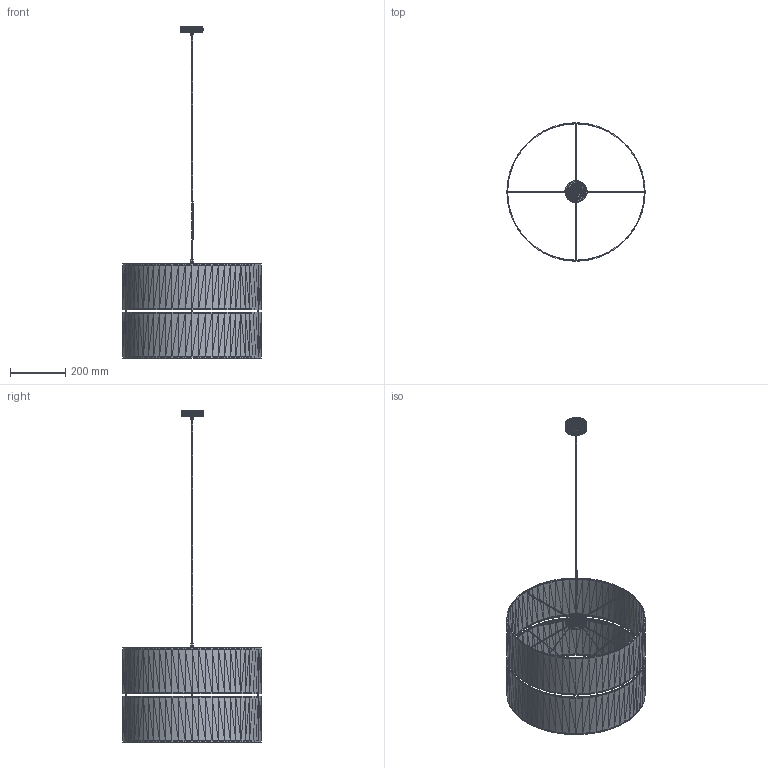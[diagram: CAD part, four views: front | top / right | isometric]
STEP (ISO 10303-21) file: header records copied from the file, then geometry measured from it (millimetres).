
FILE_DESCRIPTION(('FreeCAD Model'),'2;1');
FILE_NAME('Open CASCADE Shape Model','2022-11-30T08:33:26',('Author'),( ''),'Open CASCADE STEP processor 7.6','FreeCAD','Unknown');
FILE_SCHEMA(('AUTOMOTIVE_DESIGN { 1 0 10303 214 1 1 1 1 }'));
Length unit declared in the file: millimetre
Products named in the file (56): Unnamed; Mesh056 (Solid); Mesh001001 (Solid); Mesh002001 (Solid); Mesh003001 (Solid); Mesh004001 (Solid); Mesh005001 (Solid); Mesh006001 (Solid); Mesh007001 (Solid); Mesh008001 (Solid); Mesh009001 (Solid); Mesh010001 (Solid); Mesh011001 (Solid); Mesh012001 (Solid); Mesh013001 (Solid); Mesh014001 (Solid); Mesh015001 (Solid); Mesh017001 (Solid); Mesh018001 (Solid); Mesh019001 (Solid); Mesh020001 (Solid); Mesh021001 (Solid); Mesh022001 (Solid); Mesh023001 (Solid); Mesh024001 (Solid); Mesh025001 (Solid); Mesh026001 (Solid); Mesh027001 (Solid); Mesh028001 (Solid); Mesh029001 (Solid); Mesh030001 (Solid); Mesh031001 (Solid); Mesh032001 (Solid); Mesh033001 (Solid); Mesh034001 (Solid); Mesh035001 (Solid); Mesh036001 (Solid); Mesh037001 (Solid); Mesh038001 (Solid); Mesh039001 (Solid)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
Assembly tree (55 placements, depth 2):
  Unnamed
    Mesh056 (Solid)
    Mesh001001 (Solid)
    Mesh002001 (Solid)
    Mesh003001 (Solid)
    Mesh004001 (Solid)
    Mesh005001 (Solid)
    Mesh006001 (Solid)
    Mesh007001 (Solid)
    Mesh008001 (Solid)
    Mesh009001 (Solid)
    Mesh010001 (Solid)
    Mesh011001 (Solid)
    Mesh012001 (Solid)
    Mesh013001 (Solid)
    Mesh014001 (Solid)
    Mesh015001 (Solid)
    Mesh017001 (Solid)
    Mesh018001 (Solid)
    Mesh019001 (Solid)
    Mesh020001 (Solid)
    Mesh021001 (Solid)
    Mesh022001 (Solid)
    Mesh023001 (Solid)
    Mesh024001 (Solid)
    Mesh025001 (Solid)
    Mesh026001 (Solid)
    Mesh027001 (Solid)
    Mesh028001 (Solid)
    Mesh029001 (Solid)
    Mesh030001 (Solid)
    Mesh031001 (Solid)
    Mesh032001 (Solid)
    Mesh033001 (Solid)
    Mesh034001 (Solid)
    Mesh035001 (Solid)
    Mesh036001 (Solid)
    Mesh037001 (Solid)
    Mesh038001 (Solid)
    Mesh039001 (Solid)
    Mesh040001 (Solid)
    Mesh041001 (Solid)
    Mesh042001 (Solid)
    Mesh043001 (Solid)
    Mesh044001 (Solid)
    Mesh045001 (Solid)
    Mesh046001 (Solid)
    Mesh047001 (Solid)
    Mesh048001 (Solid)
    Mesh049001 (Solid)
    Mesh050001 (Solid)
    Mesh051001 (Solid)
    Mesh052001 (Solid)
    Mesh053001 (Solid)
    Mesh054001 (Solid)
    Mesh055001 (Solid)
Bounding box: 499.5 x 499.5 x 1200 mm (x, y, z)
Volume: 289238.7 mm3; surface area: 676209.3 mm2
Topology: 40 solids, 102 shells, 9870 faces, 15381 edges, 5595 vertices
Faces by surface type: plane 9870
Entity records: 391296 total; most frequent: DIRECTION 64842, CARTESIAN_POINT 60435, LINE 44830, VECTOR 44830, ORIENTED_EDGE 29850, PCURVE 29405, DEFINITIONAL_REPRESENTATION 29405, EDGE_CURVE 15425
